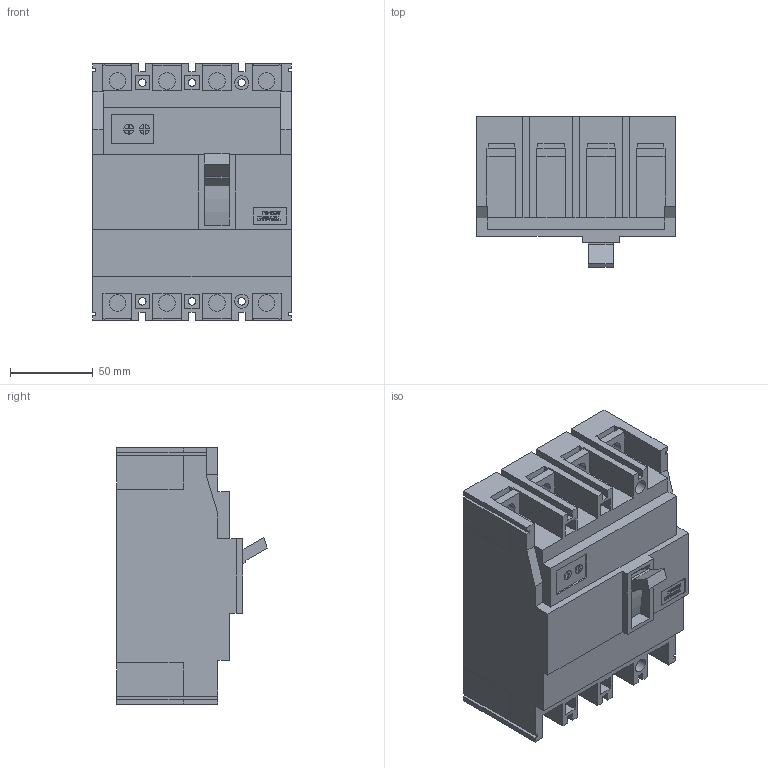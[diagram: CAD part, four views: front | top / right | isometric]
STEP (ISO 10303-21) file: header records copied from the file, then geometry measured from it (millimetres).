
FILE_DESCRIPTION((''),'2;1');
FILE_NAME('S125GJ432','2012-09-19T',('cmahecha'),(''),'PRO/ENGINEER BY PARAMETRIC TECHNOLOGY CORPORATION, 2010280','PRO/ENGINEER BY PARAMETRIC TECHNOLOGY CORPORATION, 2010280','');
FILE_SCHEMA(('CONFIG_CONTROL_DESIGN'));
Length unit declared in the file: millimetre
Products named in the file (1): S125GJ432
Bounding box: 120 x 90.8 x 155 mm (x, y, z)
Volume: 1123953.2 mm3; surface area: 102356 mm2
Topology: 1 solids, 1 shells, 652 faces, 1825 edges, 1210 vertices
Faces by surface type: plane 610, cylinder 42
Entity records: 20667 total; most frequent: CARTESIAN_POINT 3687, ORIENTED_EDGE 3650, DIRECTION 3213, EDGE_CURVE 1825, VECTOR 1741, LINE 1741, VERTEX_POINT 1210, AXIS2_PLACEMENT_3D 736
